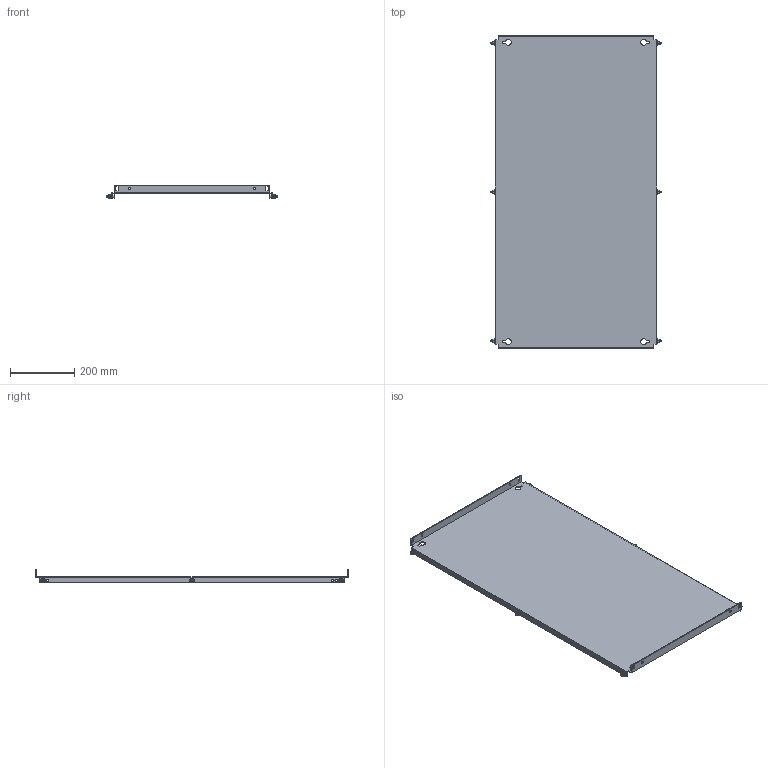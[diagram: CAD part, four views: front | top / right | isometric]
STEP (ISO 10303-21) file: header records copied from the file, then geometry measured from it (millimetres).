
FILE_DESCRIPTION(('Open CASCADE Model'),'2;1');
FILE_NAME('Open CASCADE Shape Model','2025-02-20T13:24:49',('Author'),( 'Open CASCADE'),'Open CASCADE STEP processor 7.8','Open CASCADE 7.8' ,'Unknown');
FILE_SCHEMA(('AUTOMOTIVE_DESIGN { 1 0 10303 214 1 1 1 1 }'));
Length unit declared in the file: millimetre
Products named in the file (4): Compound1; Solid1; Solid2; Solid3
Assembly tree (13 placements, depth 2):
  Compound1
    Solid1
    Solid2  x6
    Solid3  x6
Bounding box: 528 x 969 x 43 mm (x, y, z)
Volume: 1083980.6 mm3; surface area: 1090373.3 mm2
Topology: 13 solids, 13 shells, 422 faces, 1010 edges, 620 vertices
Faces by surface type: plane 192, cone 102, bspline 72, cylinder 38, torus 18
Full cylindrical faces by diameter (mm): 5 x6, 6 x12, 7 x16
Entity records: 5048 total; most frequent: CARTESIAN_POINT 1397, ORIENTED_EDGE 770, DIRECTION 664, EDGE_CURVE 385, VERTEX_POINT 250, AXIS2_PLACEMENT_3D 224, LINE 216, VECTOR 216
